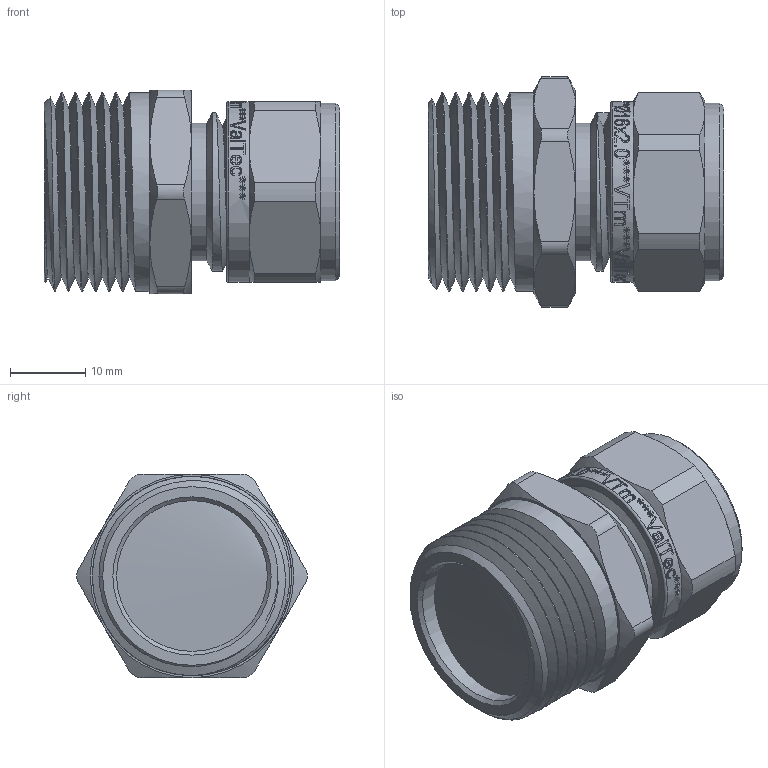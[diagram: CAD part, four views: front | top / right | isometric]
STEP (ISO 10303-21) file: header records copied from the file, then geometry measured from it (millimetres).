
FILE_DESCRIPTION(/* description */ (''),/* implementation_level */ '2;1');
FILE_NAME(/* name */ 'E:\Артём\00000\Работа удаленка\Обжимные фитинги\VTm.301.N.001605.stp',/* time_stamp */ '2020-05-20T16:27:05+03:00',/* author */ ('BeN_GaN'),/* organization */ (''),/* preprocessor_version */ 'ST-DEVELOPER v18',/* originating_system */ 'Autodesk Inventor 2020',/* authorisation */ '');
FILE_SCHEMA (('AUTOMOTIVE_DESIGN { 1 0 10303 214 3 1 1 }'));
Length unit declared in the file: millimetre
Products named in the file (1): VTm.301.N.001605
Bounding box: 39.17 x 30.56 x 27 mm (x, y, z)
Volume: 10902.5 mm3; surface area: 9955.2 mm2
Topology: 1 solids, 2 shells, 684 faces, 1901 edges, 1278 vertices
Faces by surface type: bspline 346, plane 182, cylinder 95, cone 36, torus 25
Full cylindrical faces by diameter (mm): 8 x1, 9.4 x2, 11.75 x4, 16 x4, 16.2 x1, 16.6 x5, 17 x1, 17.4 x2, 18.2 x1, 18.6 x1, 20 x1, 21 x3, 22.8 x8, 23.5 x1, 24 x1, 26.4 x5
Entity records: 29584 total; most frequent: CARTESIAN_POINT 14310, ORIENTED_EDGE 3802, DIRECTION 2102, EDGE_CURVE 1901, VERTEX_POINT 1278, LINE 764, VECTOR 764, B_SPLINE_CURVE_WITH_KNOTS 759
